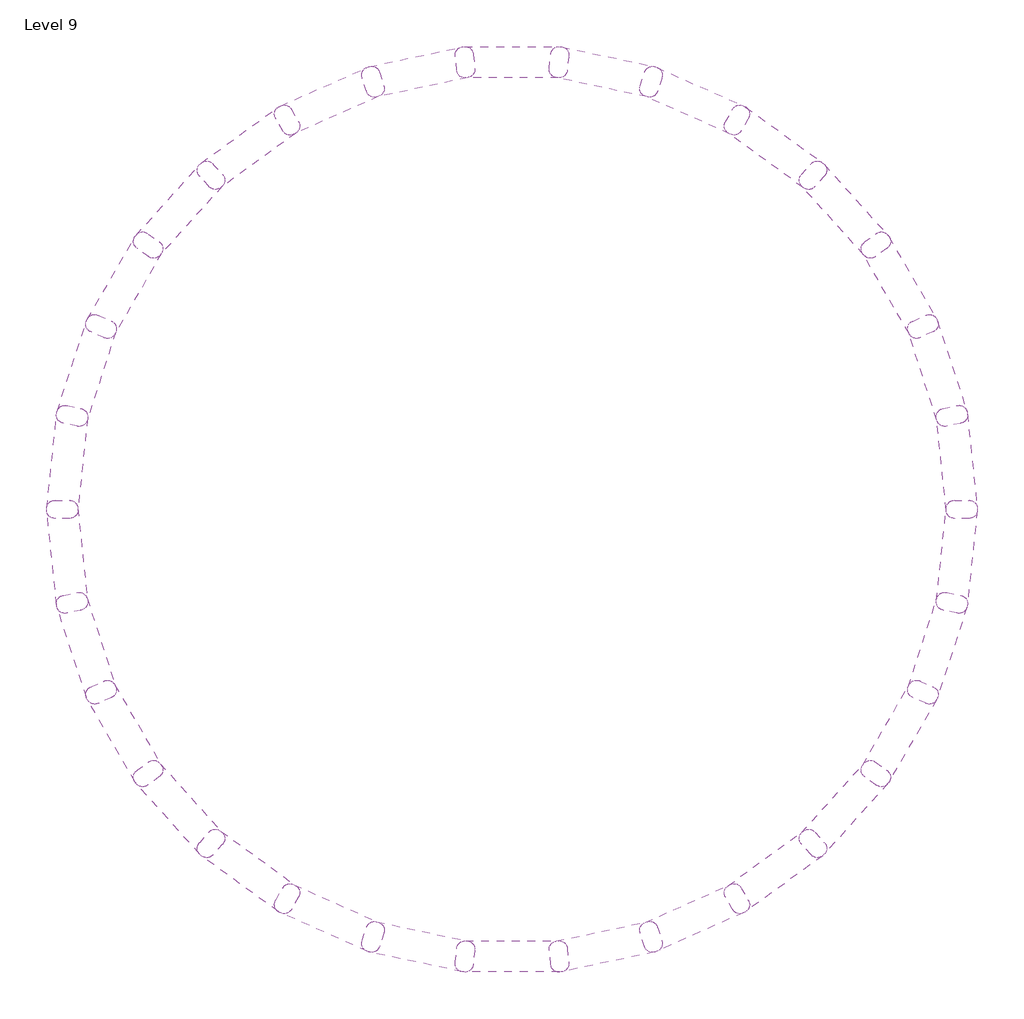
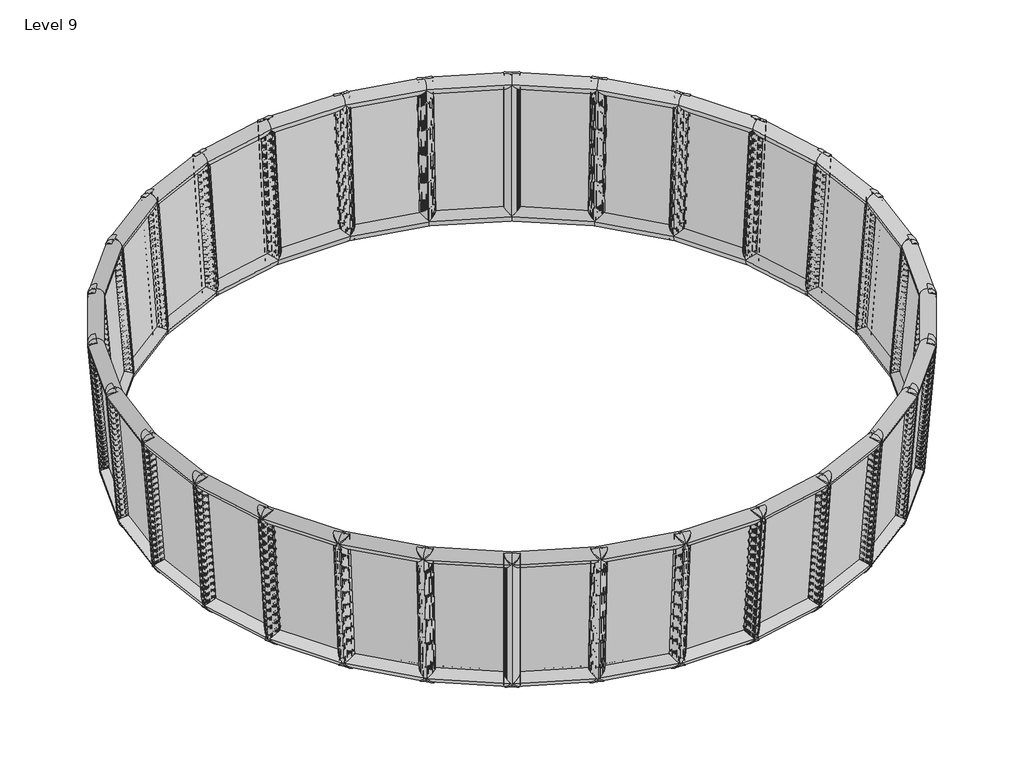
# One storey: 30 plates.
"""IFC4 building model written with IfcOpenShell, lengths in millimetres."""

from ifc_helpers import new_model, si_unit, origin, place, context, project, spatial, transform, mapped, element, save
from components import curtainpanel_curtainpanel_a06fb718

model = new_model("IFC4")

# Units and contexts
model_context = context("Model", 3, world=origin())
ifc_project = project(units=[si_unit("LENGTHUNIT", "METRE", prefix="MILLI")], contexts=[model_context])

# Site, building, storey
site = spatial("IfcSite", under=ifc_project)
building = spatial("IfcBuilding", under=site)
storey = spatial("IfcBuildingStorey", under=building, Name="Level 9", Elevation=32000.0)

# Plates
placement = place(None, origin())
curtainpanel_curtainpanel_shape = curtainpanel_curtainpanel_a06fb718(model_context)
element("IfcPlate", 1, ObjectType="CurtainPanel : CurtainPanel", at=placement, inside=storey, context=model_context, shape_type="MappedRepresentation", body=[
    mapped(curtainpanel_curtainpanel_shape, transform((11234.3800755, -2285.4451775, 43708.121788), x_axis=(-0.12130287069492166, 0.9569376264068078, -0.26373470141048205), y_axis=(-0.04707435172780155, -0.2709437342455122, -0.961443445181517), z_axis=(-0.9914986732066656, -0.1042107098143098, 0.0779134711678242))),
])
element("IfcPlate", 2, ObjectType="CurtainPanel : CurtainPanel", at=placement, inside=storey, context=model_context, shape_type="MappedRepresentation", body=[
    mapped(curtainpanel_curtainpanel_shape, transform((11398.6961886, 158.7837761, 43708.121788), x_axis=(-0.3176106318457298, 0.9108059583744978, -0.2637347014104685), y_axis=(0.01028670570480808, -0.2748102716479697, -0.9614434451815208), z_axis=(-0.9481654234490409, -0.3080776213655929, 0.07791347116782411))),
])
element("IfcPlate", 3, ObjectType="CurtainPanel : CurtainPanel", at=placement, inside=storey, context=model_context, shape_type="MappedRepresentation", body=[
    mapped(curtainpanel_curtainpanel_shape, transform((11051.2378259, 2583.7637036, 43708.121788), x_axis=(-0.5000372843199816, 0.8248676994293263, -0.2637347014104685), y_axis=(0.06719818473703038, -0.2666662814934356, -0.9614434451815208), z_axis=(-0.8633927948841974, -0.4984800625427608, 0.07791347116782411))),
])
element("IfcPlate", 4, ObjectType="CurtainPanel : CurtainPanel", at=placement, inside=storey, context=model_context, shape_type="MappedRepresentation", body=[
    mapped(curtainpanel_curtainpanel_shape, transform((10207.1905852, 4883.5113458, 43708.121788), x_axis=(-0.660609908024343, 0.7028787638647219, -0.2637347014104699), y_axis=(0.12117278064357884, -0.24686769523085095, -0.9614434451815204), z_axis=(-0.7408857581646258, -0.6670965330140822, 0.07791347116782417))),
])
element("IfcPlate", 5, ObjectType="CurtainPanel : CurtainPanel", at=placement, inside=storey, context=model_context, shape_type="MappedRepresentation", body=[
    mapped(curtainpanel_curtainpanel_shape, transform((8903.443381, 6957.5166954, 43708.121788), x_axis=(-0.7923107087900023, 0.5501706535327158, -0.26373470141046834), y_axis=(0.16985154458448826, -0.21627980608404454, -0.9614434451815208), z_axis=(-0.5859984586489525, -0.8065576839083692, 0.07791347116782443))),
])
element("IfcPlate", 6, ObjectType="CurtainPanel : CurtainPanel", at=placement, inside=storey, context=model_context, shape_type="MappedRepresentation", body=[
    mapped(curtainpanel_curtainpanel_shape, transform((7196.9762223, 8715.1357663, 43708.121788), x_axis=(-0.8893837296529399, 0.37341744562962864, -0.26373470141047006), y_axis=(0.2111069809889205, -0.17623945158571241, -0.9614434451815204), z_axis=(-0.4055002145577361, -0.9107683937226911, 0.07791347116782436))),
])
element("IfcPlate", 7, ObjectType="CurtainPanel : CurtainPanel", at=placement, inside=storey, context=model_context, shape_type="MappedRepresentation", body=[
    mapped(curtainpanel_curtainpanel_shape, transform((5162.3699125, 10079.5521713, 43708.121788), x_axis=(-0.9475864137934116, 0.1803441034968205, -0.2637347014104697), y_axis=(0.2431360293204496, -0.12849658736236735, -0.9614434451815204), z_axis=(-0.20727966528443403, -0.9751741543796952, 0.07791347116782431))),
])
element("IfcPlate", 8, ObjectType="CurtainPanel : CurtainPanel", at=placement, inside=storey, context=model_context, shape_type="MappedRepresentation", body=[
    mapped(curtainpanel_curtainpanel_shape, transform((2888.5465103, 10991.1343662, 43708.121788), x_axis=(-0.9643750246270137, -0.020611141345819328, -0.26373470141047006), y_axis=(0.26453886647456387, -0.07513780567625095, -0.9614434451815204), z_axis=(0.0, -0.9969601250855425, 0.07791347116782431))),
])
element("IfcPlate", 9, ObjectType="CurtainPanel : CurtainPanel", at=placement, inside=storey, context=model_context, shape_type="MappedRepresentation", body=[
    mapped(curtainpanel_curtainpanel_shape, transform((474.8830095, 11410.0418349, 43708.121788), x_axis=(-0.9390158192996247, -0.22066558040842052, -0.26373470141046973), y_axis=(0.2743800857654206, -0.018495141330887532, -0.9614434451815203), z_axis=(0.20727966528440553, -0.9751741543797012, 0.0779134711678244))),
])
element("IfcPlate", 10, ObjectType="CurtainPanel : CurtainPanel", at=placement, inside=storey, context=model_context, shape_type="MappedRepresentation", body=[
    mapped(curtainpanel_curtainpanel_shape, transform((-1973.1319129, 11317.9663108, 43708.121788), x_axis=(-0.87261711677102, -0.4110758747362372, -0.26373470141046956), y_axis=(0.2722295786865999, 0.03895584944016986, -0.9614434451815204), z_axis=(0.40550021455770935, -0.910768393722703, 0.07791347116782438))),
])
element("IfcPlate", 11, ObjectType="CurtainPanel : CurtainPanel", at=placement, inside=storey, context=model_context, shape_type="MappedRepresentation", body=[
    mapped(curtainpanel_curtainpanel_shape, transform((-6547.4306809, 9639.1193875, 43708.121788), x_axis=(-0.6299757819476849, -0.7304618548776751, -0.26373470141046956), y_axis=(0.23284932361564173, 0.14631368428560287, -0.9614434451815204), z_axis=(0.7408857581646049, -0.6670965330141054, 0.07791347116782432))),
])
element("IfcPlate", 12, ObjectType="CurtainPanel : CurtainPanel", at=placement, inside=storey, context=model_context, shape_type="MappedRepresentation", body=[
    mapped(curtainpanel_curtainpanel_shape, transform((-10043.4119806, 6244.8814814, 43708.121788), x_axis=(-0.27840591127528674, -0.9235443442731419, -0.26373470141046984), y_axis=(0.15320730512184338, 0.2283725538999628, -0.9614434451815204), z_axis=(0.9481654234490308, -0.30807762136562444, 0.07791347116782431))),
])
element("IfcPlate", 13, ObjectType="CurtainPanel : CurtainPanel", at=placement, inside=storey, context=model_context, shape_type="MappedRepresentation", body=[
    mapped(curtainpanel_curtainpanel_shape, transform((-4348.5082579, 10718.9319361, 43708.121788), x_axis=(-0.7680808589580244, -0.5835201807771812, -0.26373470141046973), y_axis=(0.25818133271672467, 0.09470428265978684, -0.9614434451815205), z_axis=(0.5859984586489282, -0.8065576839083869, 0.07791347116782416))),
])
element("IfcPlate", 14, ObjectType="CurtainPanel : CurtainPanel", at=placement, inside=storey, context=model_context, shape_type="MappedRepresentation", body=[
    mapped(curtainpanel_curtainpanel_shape, transform((-8473.7957205, 8125.721655, 43708.121788), x_axis=(-0.46433774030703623, -0.8454788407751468, -0.2637347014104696), y_axis=(0.1973406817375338, 0.19152847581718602, -0.9614434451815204), z_axis=(0.8633927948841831, -0.4984800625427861, 0.0779134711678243))),
])
element("IfcPlate", 15, ObjectType="CurtainPanel : CurtainPanel", at=placement, inside=storey, context=model_context, shape_type="MappedRepresentation", body=[
    mapped(curtainpanel_curtainpanel_shape, transform((-11187.6796988, 4078.8006077, 43708.121788), x_axis=(-0.08030640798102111, -0.9612465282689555, -0.2637347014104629), y_axis=(0.10237803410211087, 0.2552356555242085, -0.9614434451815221), z_axis=(0.991498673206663, -0.10421070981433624, 0.07791347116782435))),
])
element("IfcPlate", 16, ObjectType="CurtainPanel : CurtainPanel", at=placement, inside=storey, context=model_context, shape_type="MappedRepresentation", body=[
    mapped(curtainpanel_curtainpanel_shape, transform((-11856.5888851, 1722.147162, 43708.121788), x_axis=(0.1213028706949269, -0.9569376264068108, -0.2637347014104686), y_axis=(0.04707435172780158, 0.2709437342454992, -0.9614434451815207), z_axis=(0.9914986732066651, 0.10421070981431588, 0.07791347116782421))),
])
element("IfcPlate", 17, ObjectType="CurtainPanel : CurtainPanel", at=placement, inside=storey, context=model_context, shape_type="MappedRepresentation", body=[
    mapped(curtainpanel_curtainpanel_shape, transform((-12020.9049982, -722.0817915, 43708.121788), x_axis=(0.3176106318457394, -0.9108059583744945, -0.26373470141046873), y_axis=(-0.010286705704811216, 0.2748102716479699, -0.9614434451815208), z_axis=(0.9481654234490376, 0.30807762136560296, 0.07791347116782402))),
])
element("IfcPlate", 18, ObjectType="CurtainPanel : CurtainPanel", at=placement, inside=storey, context=model_context, shape_type="MappedRepresentation", body=[
    mapped(curtainpanel_curtainpanel_shape, transform((-11673.4466355, -3147.061719, 43708.121788), x_axis=(0.5000372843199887, -0.8248676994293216, -0.26373470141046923), y_axis=(-0.06719818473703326, 0.26666628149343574, -0.9614434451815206), z_axis=(0.8633927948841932, 0.49848006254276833, 0.07791347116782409))),
])
element("IfcPlate", 19, ObjectType="CurtainPanel : CurtainPanel", at=placement, inside=storey, context=model_context, shape_type="MappedRepresentation", body=[
    mapped(curtainpanel_curtainpanel_shape, transform((-10829.3993948, -5446.8093612, 43708.121788), x_axis=(0.6606099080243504, -0.7028787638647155, -0.26373470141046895), y_axis=(-0.12117278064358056, 0.24686769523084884, -0.9614434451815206), z_axis=(0.740885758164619, 0.6670965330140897, 0.07791347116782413))),
])
element("IfcPlate", 20, ObjectType="CurtainPanel : CurtainPanel", at=placement, inside=storey, context=model_context, shape_type="MappedRepresentation", body=[
    mapped(curtainpanel_curtainpanel_shape, transform((-9525.6521907, -7520.8147108, 43708.121788), x_axis=(0.7923107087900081, -0.550170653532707, -0.2637347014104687), y_axis=(-0.1698515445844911, 0.2162798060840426, -0.9614434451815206), z_axis=(0.5859984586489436, 0.8065576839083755, 0.07791347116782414))),
])
element("IfcPlate", 21, ObjectType="CurtainPanel : CurtainPanel", at=placement, inside=storey, context=model_context, shape_type="MappedRepresentation", body=[
    mapped(curtainpanel_curtainpanel_shape, transform((-7819.185032, -9278.4337818, 43708.121788), x_axis=(0.8893837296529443, -0.3734174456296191, -0.26373470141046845), y_axis=(-0.21110698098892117, 0.17623945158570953, -0.9614434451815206), z_axis=(0.4055002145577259, 0.9107683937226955, 0.07791347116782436))),
])
element("IfcPlate", 22, ObjectType="CurtainPanel : CurtainPanel", at=placement, inside=storey, context=model_context, shape_type="MappedRepresentation", body=[
    mapped(curtainpanel_curtainpanel_shape, transform((-5784.5787221, -10642.8501867, 43708.121788), x_axis=(0.947586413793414, -0.18034410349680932, -0.26373470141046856), y_axis=(-0.24313602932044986, 0.12849658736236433, -0.9614434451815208), z_axis=(0.2072796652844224, 0.9751741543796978, 0.07791347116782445))),
])
element("IfcPlate", 23, ObjectType="CurtainPanel : CurtainPanel", at=placement, inside=storey, context=model_context, shape_type="MappedRepresentation", body=[
    mapped(curtainpanel_curtainpanel_shape, transform((-3510.7553199, -11554.4323817, 43708.121788), x_axis=(0.9643750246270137, 0.020611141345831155, -0.2637347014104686), y_axis=(-0.26453886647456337, 0.07513780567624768, -0.9614434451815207), z_axis=(0.0, 0.9969601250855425, 0.0779134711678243))),
])
element("IfcPlate", 24, ObjectType="CurtainPanel : CurtainPanel", at=placement, inside=storey, context=model_context, shape_type="MappedRepresentation", body=[
    mapped(curtainpanel_curtainpanel_shape, transform((-1097.0918191, -11973.3398503, 43708.121788), x_axis=(0.9390158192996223, 0.22066558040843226, -0.26373470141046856), y_axis=(-0.2743800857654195, 0.018495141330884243, -0.9614434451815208), z_axis=(-0.2072796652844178, 0.9751741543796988, 0.07791347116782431))),
])
element("IfcPlate", 25, ObjectType="CurtainPanel : CurtainPanel", at=placement, inside=storey, context=model_context, shape_type="MappedRepresentation", body=[
    mapped(curtainpanel_curtainpanel_shape, transform((1350.9231033, -11881.2643262, 43708.121788), x_axis=(0.8726171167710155, 0.41107587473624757, -0.26373470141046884), y_axis=(-0.2722295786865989, -0.038955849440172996, -0.9614434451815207), z_axis=(-0.40550021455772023, 0.9107683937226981, 0.07791347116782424))),
])
element("IfcPlate", 26, ObjectType="CurtainPanel : CurtainPanel", at=placement, inside=storey, context=model_context, shape_type="MappedRepresentation", body=[
    mapped(curtainpanel_curtainpanel_shape, transform((5925.2218713, -10202.4174029, 43708.121788), x_axis=(0.6299757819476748, 0.730461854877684, -0.26373470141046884), y_axis=(-0.2328493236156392, -0.14631368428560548, -0.9614434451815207), z_axis=(-0.7408857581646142, 0.6670965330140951, 0.07791347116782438))),
])
element("IfcPlate", 27, ObjectType="CurtainPanel : CurtainPanel", at=placement, inside=storey, context=model_context, shape_type="MappedRepresentation", body=[
    mapped(curtainpanel_curtainpanel_shape, transform((9421.2031709, -6808.1794968, 43708.121788), x_axis=(0.27840591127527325, 0.9235443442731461, -0.2637347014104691), y_axis=(-0.1532073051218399, -0.22837255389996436, -0.9614434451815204), z_axis=(-0.9481654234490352, 0.3080776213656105, 0.07791347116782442))),
])
element("IfcPlate", 28, ObjectType="CurtainPanel : CurtainPanel", at=placement, inside=storey, context=model_context, shape_type="MappedRepresentation", body=[
    mapped(curtainpanel_curtainpanel_shape, transform((3726.2994483, -11282.2299515, 43708.121788), x_axis=(0.7680808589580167, 0.5835201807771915, -0.26373470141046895), y_axis=(-0.25818133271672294, -0.09470428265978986, -0.9614434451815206), z_axis=(-0.5859984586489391, 0.806557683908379, 0.07791347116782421))),
])
element("IfcPlate", 29, ObjectType="CurtainPanel : CurtainPanel", at=placement, inside=storey, context=model_context, shape_type="MappedRepresentation", body=[
    mapped(curtainpanel_curtainpanel_shape, transform((7851.5869108, -8689.0196704, 43708.121788), x_axis=(0.4643377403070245, 0.8454788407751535, -0.2637347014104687), y_axis=(-0.19734068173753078, -0.19152847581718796, -0.9614434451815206), z_axis=(-0.86339279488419, 0.4984800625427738, 0.07791347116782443))),
])
element("IfcPlate", 30, ObjectType="CurtainPanel : CurtainPanel", at=placement, inside=storey, context=model_context, shape_type="MappedRepresentation", body=[
    mapped(curtainpanel_curtainpanel_shape, transform((10565.4708892, -4642.0986231, 43708.121788), x_axis=(0.08030640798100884, 0.9612465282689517, -0.26373470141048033), y_axis=(-0.10237803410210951, -0.25523565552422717, -0.9614434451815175), z_axis=(-0.991498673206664, 0.10421070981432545, 0.07791347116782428))),
])

save(model, "model.ifc")
